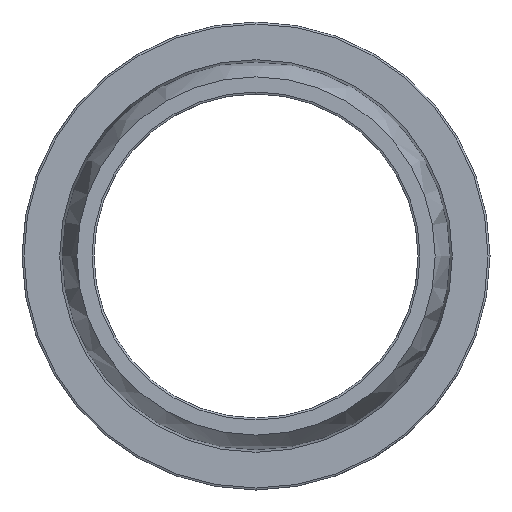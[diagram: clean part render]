
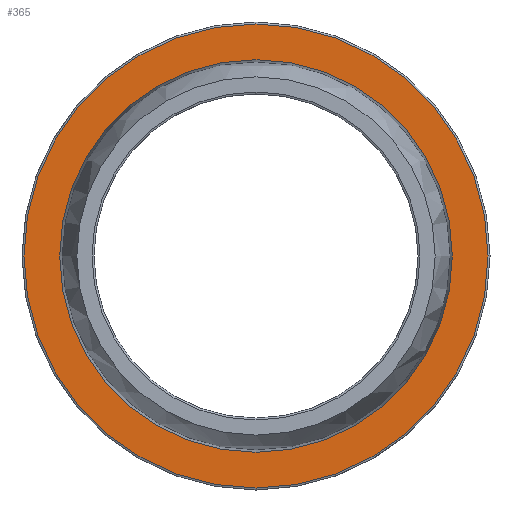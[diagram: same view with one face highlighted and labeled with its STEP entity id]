
A CAD part, left-side view. The second image highlights one B-rep face of the part: STEP entity #365.
In plain terms, the highlighted planar face has unit normal (-1, 0, 0).
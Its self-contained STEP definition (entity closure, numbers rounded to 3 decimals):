
#31=PLANE('',#419);
#76=FACE_BOUND('',#168,.T.);
#109=FACE_OUTER_BOUND('',#167,.T.);
#167=EDGE_LOOP('',(#321));
#168=EDGE_LOOP('',(#322));
#200=CIRCLE('',#418,109.053);
#201=CIRCLE('',#420,128.9);
#232=VERTEX_POINT('',#842);
#233=VERTEX_POINT('',#845);
#264=EDGE_CURVE('',#232,#232,#200,.T.);
#265=EDGE_CURVE('',#233,#233,#201,.T.);
#321=ORIENTED_EDGE('',*,*,#265,.F.);
#322=ORIENTED_EDGE('',*,*,#264,.T.);
#365=ADVANCED_FACE('',(#109,#76),#31,.T.);
#418=AXIS2_PLACEMENT_3D('',#843,#522,#523);
#419=AXIS2_PLACEMENT_3D('',#844,#524,#525);
#420=AXIS2_PLACEMENT_3D('',#846,#526,#527);
#522=DIRECTION('center_axis',(1.,0.,0.));
#523=DIRECTION('ref_axis',(0.,0.,-1.));
#524=DIRECTION('center_axis',(-1.,0.,0.));
#525=DIRECTION('ref_axis',(0.,0.,1.));
#526=DIRECTION('center_axis',(1.,0.,0.));
#527=DIRECTION('ref_axis',(0.,0.,-1.));
#842=CARTESIAN_POINT('',(-40.,109.053,0.));
#843=CARTESIAN_POINT('Origin',(-40.,0.,0.));
#844=CARTESIAN_POINT('Origin',(-40.,128.9,0.));
#845=CARTESIAN_POINT('',(-40.,128.9,0.));
#846=CARTESIAN_POINT('Origin',(-40.,0.,0.));
